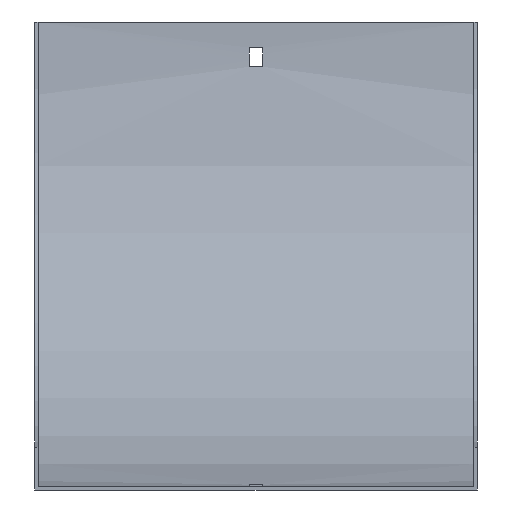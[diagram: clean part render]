
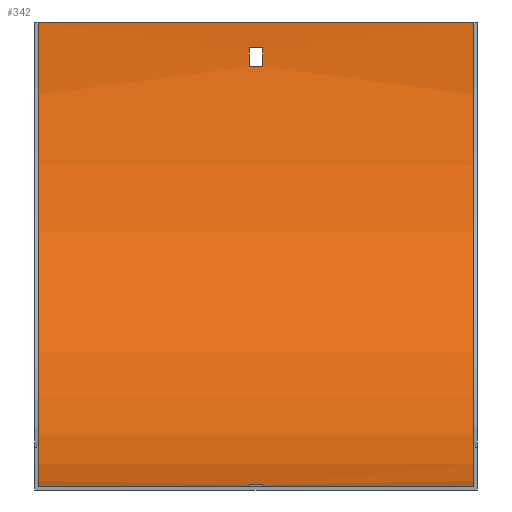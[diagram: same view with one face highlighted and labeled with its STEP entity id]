
A CAD part, front view. The second image highlights one B-rep face of the part: STEP entity #342.
In plain terms, the highlighted cylindrical face has radius 217.5 mm (diameter 435 mm), a partial arc.
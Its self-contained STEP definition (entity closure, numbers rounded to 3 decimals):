
#2 = DIRECTION ( 'NONE',  ( 0., 0., 1. ) ) ;
#4 = CIRCLE ( 'NONE', #379, 217.5 ) ;
#10 = VERTEX_POINT ( 'NONE', #161 ) ;
#12 = ORIENTED_EDGE ( 'NONE', *, *, #556, .F. ) ;
#13 = EDGE_CURVE ( 'NONE', #588, #144, #345, .T. ) ;
#17 = FACE_BOUND ( 'NONE', #123, .T. ) ;
#22 = VERTEX_POINT ( 'NONE', #353 ) ;
#27 = CIRCLE ( 'NONE', #187, 217.5 ) ;
#32 = AXIS2_PLACEMENT_3D ( 'NONE', #420, #319, #2 ) ;
#44 = VECTOR ( 'NONE', #493, 1000. ) ;
#55 = ORIENTED_EDGE ( 'NONE', *, *, #139, .F. ) ;
#60 = CARTESIAN_POINT ( 'NONE',  ( 103.5, -219., 0. ) ) ;
#66 = ORIENTED_EDGE ( 'NONE', *, *, #159, .T. ) ;
#72 = CARTESIAN_POINT ( 'NONE',  ( 102., -1.5, 0. ) ) ;
#89 = LINE ( 'NONE', #557, #211 ) ;
#102 = DIRECTION ( 'NONE',  ( 1., 0., 0. ) ) ;
#110 = CARTESIAN_POINT ( 'NONE',  ( 102., -1.5, 0. ) ) ;
#112 = CARTESIAN_POINT ( 'NONE',  ( -3.25, -219., 0. ) ) ;
#114 = LINE ( 'NONE', #72, #401 ) ;
#117 = VERTEX_POINT ( 'NONE', #514 ) ;
#123 = EDGE_LOOP ( 'NONE', ( #66, #482, #560, #201 ) ) ;
#137 = CARTESIAN_POINT ( 'NONE',  ( -3.25, -219., 0. ) ) ;
#139 = EDGE_CURVE ( 'NONE', #117, #471, #27, .T. ) ;
#144 = VERTEX_POINT ( 'NONE', #369 ) ;
#153 = VERTEX_POINT ( 'NONE', #409 ) ;
#155 = VERTEX_POINT ( 'NONE', #599 ) ;
#156 = CIRCLE ( 'NONE', #165, 217.5 ) ;
#159 = EDGE_CURVE ( 'NONE', #233, #153, #173, .T. ) ;
#161 = CARTESIAN_POINT ( 'NONE',  ( 3.25, -2.516, -21. ) ) ;
#162 = LINE ( 'NONE', #302, #44 ) ;
#165 = AXIS2_PLACEMENT_3D ( 'NONE', #112, #344, #537 ) ;
#173 = LINE ( 'NONE', #421, #361 ) ;
#187 = AXIS2_PLACEMENT_3D ( 'NONE', #137, #464, #310 ) ;
#190 = DIRECTION ( 'NONE',  ( 0., 0., -1. ) ) ;
#192 = VERTEX_POINT ( 'NONE', #110 ) ;
#198 = DIRECTION ( 'NONE',  ( 1., 0., 0. ) ) ;
#201 = ORIENTED_EDGE ( 'NONE', *, *, #286, .T. ) ;
#211 = VECTOR ( 'NONE', #553, 1000. ) ;
#226 = ORIENTED_EDGE ( 'NONE', *, *, #517, .F. ) ;
#233 = VERTEX_POINT ( 'NONE', #483 ) ;
#234 = EDGE_CURVE ( 'NONE', #10, #336, #582, .T. ) ;
#239 = DIRECTION ( 'NONE',  ( 0., 0., 1. ) ) ;
#246 = EDGE_LOOP ( 'NONE', ( #12, #419, #274, #468 ) ) ;
#247 = CARTESIAN_POINT ( 'NONE',  ( 103.5, -198., -216.484 ) ) ;
#249 = CIRCLE ( 'NONE', #32, 217.5 ) ;
#252 = DIRECTION ( 'NONE',  ( -1., 0., 0. ) ) ;
#257 = AXIS2_PLACEMENT_3D ( 'NONE', #573, #198, #190 ) ;
#272 = CARTESIAN_POINT ( 'NONE',  ( 3.25, -198., -216.484 ) ) ;
#274 = ORIENTED_EDGE ( 'NONE', *, *, #296, .T. ) ;
#278 = AXIS2_PLACEMENT_3D ( 'NONE', #60, #477, #239 ) ;
#284 = CYLINDRICAL_SURFACE ( 'NONE', #278, 217.5 ) ;
#286 = EDGE_CURVE ( 'NONE', #536, #233, #4, .T. ) ;
#296 = EDGE_CURVE ( 'NONE', #588, #192, #487, .T. ) ;
#302 = CARTESIAN_POINT ( 'NONE',  ( 103.5, -2.516, -21. ) ) ;
#305 = EDGE_LOOP ( 'NONE', ( #55, #226, #322, #386 ) ) ;
#310 = DIRECTION ( 'NONE',  ( 0., 0., 1. ) ) ;
#312 = DIRECTION ( 'NONE',  ( -1., 0., 0. ) ) ;
#317 = AXIS2_PLACEMENT_3D ( 'NONE', #328, #102, #568 ) ;
#319 = DIRECTION ( 'NONE',  ( 1., 0., 0. ) ) ;
#322 = ORIENTED_EDGE ( 'NONE', *, *, #234, .F. ) ;
#328 = CARTESIAN_POINT ( 'NONE',  ( 102., -219., 0. ) ) ;
#330 = CARTESIAN_POINT ( 'NONE',  ( 3.25, -1.831, -12. ) ) ;
#336 = VERTEX_POINT ( 'NONE', #330 ) ;
#342 = ADVANCED_FACE ( 'NONE', ( #525, #580, #17 ), #284, .F. ) ;
#344 = DIRECTION ( 'NONE',  ( 1., 0., 0. ) ) ;
#345 = LINE ( 'NONE', #594, #490 ) ;
#353 = CARTESIAN_POINT ( 'NONE',  ( -3.25, -198., -216.484 ) ) ;
#357 = EDGE_CURVE ( 'NONE', #22, #536, #495, .T. ) ;
#361 = VECTOR ( 'NONE', #312, 1000. ) ;
#369 = CARTESIAN_POINT ( 'NONE',  ( -102., -219., -217.5 ) ) ;
#379 = AXIS2_PLACEMENT_3D ( 'NONE', #439, #381, #434 ) ;
#381 = DIRECTION ( 'NONE',  ( -1., 0., 0. ) ) ;
#382 = EDGE_CURVE ( 'NONE', #471, #10, #162, .T. ) ;
#386 = ORIENTED_EDGE ( 'NONE', *, *, #382, .F. ) ;
#401 = VECTOR ( 'NONE', #252, 1000. ) ;
#405 = CARTESIAN_POINT ( 'NONE',  ( -3.25, -2.516, -21. ) ) ;
#406 = DIRECTION ( 'NONE',  ( -1., 0., 0. ) ) ;
#409 = CARTESIAN_POINT ( 'NONE',  ( -3.25, -207., -217.169 ) ) ;
#419 = ORIENTED_EDGE ( 'NONE', *, *, #13, .F. ) ;
#420 = CARTESIAN_POINT ( 'NONE',  ( -102., -219., 0. ) ) ;
#421 = CARTESIAN_POINT ( 'NONE',  ( 103.5, -207., -217.169 ) ) ;
#434 = DIRECTION ( 'NONE',  ( 0., 0., 1. ) ) ;
#439 = CARTESIAN_POINT ( 'NONE',  ( 3.25, -219., 0. ) ) ;
#448 = EDGE_CURVE ( 'NONE', #153, #22, #156, .T. ) ;
#450 = EDGE_CURVE ( 'NONE', #192, #155, #114, .T. ) ;
#452 = DIRECTION ( 'NONE',  ( 1., 0., 0. ) ) ;
#464 = DIRECTION ( 'NONE',  ( -1., 0., 0. ) ) ;
#468 = ORIENTED_EDGE ( 'NONE', *, *, #450, .T. ) ;
#471 = VERTEX_POINT ( 'NONE', #405 ) ;
#477 = DIRECTION ( 'NONE',  ( -1., 0., 0. ) ) ;
#482 = ORIENTED_EDGE ( 'NONE', *, *, #448, .T. ) ;
#483 = CARTESIAN_POINT ( 'NONE',  ( 3.25, -207., -217.169 ) ) ;
#487 = CIRCLE ( 'NONE', #317, 217.5 ) ;
#490 = VECTOR ( 'NONE', #406, 1000. ) ;
#493 = DIRECTION ( 'NONE',  ( 1., 0., 0. ) ) ;
#495 = LINE ( 'NONE', #247, #570 ) ;
#514 = CARTESIAN_POINT ( 'NONE',  ( -3.25, -1.831, -12. ) ) ;
#517 = EDGE_CURVE ( 'NONE', #336, #117, #89, .T. ) ;
#525 = FACE_BOUND ( 'NONE', #305, .T. ) ;
#536 = VERTEX_POINT ( 'NONE', #272 ) ;
#537 = DIRECTION ( 'NONE',  ( 0., 0., -1. ) ) ;
#553 = DIRECTION ( 'NONE',  ( -1., 0., 0. ) ) ;
#556 = EDGE_CURVE ( 'NONE', #144, #155, #249, .T. ) ;
#557 = CARTESIAN_POINT ( 'NONE',  ( 103.5, -1.831, -12. ) ) ;
#560 = ORIENTED_EDGE ( 'NONE', *, *, #357, .T. ) ;
#568 = DIRECTION ( 'NONE',  ( 0., 0., 1. ) ) ;
#570 = VECTOR ( 'NONE', #452, 1000. ) ;
#573 = CARTESIAN_POINT ( 'NONE',  ( 3.25, -219., 0. ) ) ;
#580 = FACE_OUTER_BOUND ( 'NONE', #246, .T. ) ;
#582 = CIRCLE ( 'NONE', #257, 217.5 ) ;
#588 = VERTEX_POINT ( 'NONE', #603 ) ;
#594 = CARTESIAN_POINT ( 'NONE',  ( 102., -219., -217.5 ) ) ;
#599 = CARTESIAN_POINT ( 'NONE',  ( -102., -1.5, 0. ) ) ;
#603 = CARTESIAN_POINT ( 'NONE',  ( 102., -219., -217.5 ) ) ;
